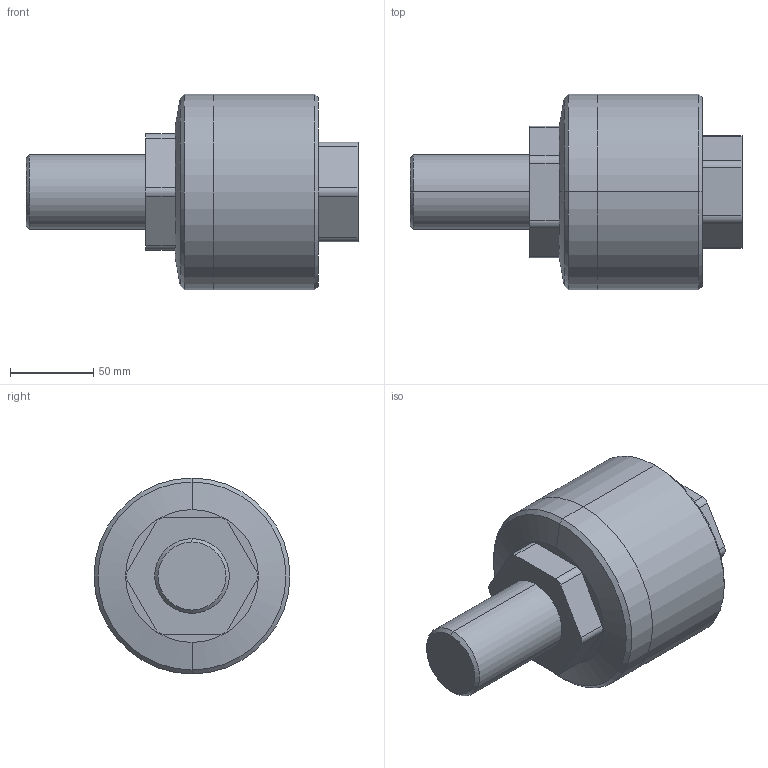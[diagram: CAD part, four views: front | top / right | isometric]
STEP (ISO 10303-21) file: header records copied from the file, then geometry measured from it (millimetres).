
FILE_DESCRIPTION (( 'STEP AP203' ), '1' );
FILE_NAME ('FCM45-1.5.STEP', '2016-03-23T03:43:32', ( 'Sam Lin' ), ( '' ), 'SwSTEP 2.0', 'SolidWorks 2013', '' );
FILE_SCHEMA (( 'CONFIG_CONTROL_DESIGN' ));
Length unit declared in the file: millimetre
Products named in the file (1): FCM45-1.5
Bounding box: 200 x 118 x 118 mm (x, y, z)
Volume: 1136183.7 mm3; surface area: 76087.4 mm2
Topology: 1 solids, 1 shells, 46 faces, 110 edges, 70 vertices
Faces by surface type: cylinder 20, plane 18, cone 8
Entity records: 1417 total; most frequent: DIRECTION 250, CARTESIAN_POINT 227, ORIENTED_EDGE 220, EDGE_CURVE 110, AXIS2_PLACEMENT_3D 93, VERTEX_POINT 70, VECTOR 64, LINE 64
